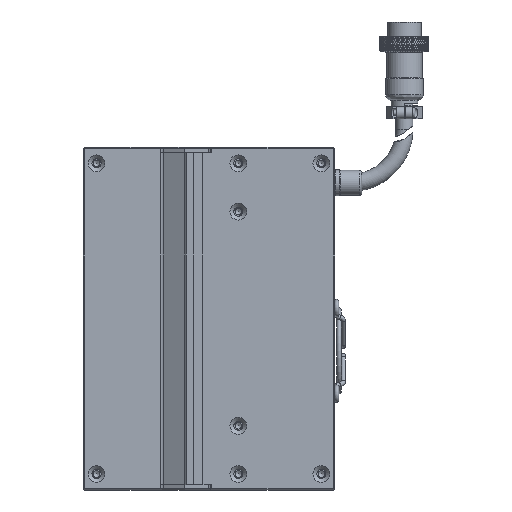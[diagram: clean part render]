
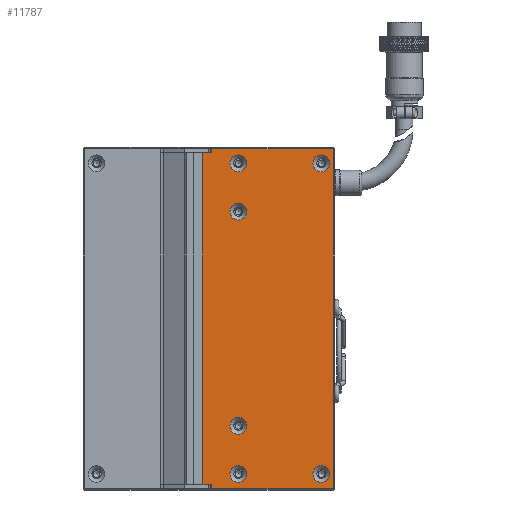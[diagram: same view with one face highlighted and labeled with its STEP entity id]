
A CAD part, left-side view. The second image highlights one B-rep face of the part: STEP entity #11787.
In plain terms, the highlighted planar face has unit normal (-1, 0, 0).
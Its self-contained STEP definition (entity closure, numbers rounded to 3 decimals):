
#1201 = CIRCLE ( 'NONE', #105301, 3.15 ) ;
#1834 = VERTEX_POINT ( 'NONE', #111870 ) ;
#2193 = DIRECTION ( 'NONE',  ( 0., 0., -1. ) ) ;
#2277 = ORIENTED_EDGE ( 'NONE', *, *, #96082, .F. ) ;
#4391 = DIRECTION ( 'NONE',  ( -1., 0., 0. ) ) ;
#4926 = ORIENTED_EDGE ( 'NONE', *, *, #40234, .F. ) ;
#5077 = EDGE_LOOP ( 'NONE', ( #36560 ) ) ;
#7399 = DIRECTION ( 'NONE',  ( 0., 0., 1. ) ) ;
#10372 = EDGE_CURVE ( 'NONE', #79257, #79257, #1201, .T. ) ;
#10379 = ORIENTED_EDGE ( 'NONE', *, *, #43570, .T. ) ;
#11787 = ADVANCED_FACE ( 'NONE', ( #117139, #54249, #112806, #42761, #102862, #37022, #78467 ), #102661, .F. ) ;
#13398 = CIRCLE ( 'NONE', #93582, 3.15 ) ;
#13617 = CIRCLE ( 'NONE', #63033, 3.15 ) ;
#13858 = VECTOR ( 'NONE', #88646, 1000. ) ;
#14790 = EDGE_LOOP ( 'NONE', ( #86391 ) ) ;
#15549 = VERTEX_POINT ( 'NONE', #117860 ) ;
#16073 = DIRECTION ( 'NONE',  ( -1., 0., 0. ) ) ;
#16215 = EDGE_LOOP ( 'NONE', ( #71949 ) ) ;
#17066 = VECTOR ( 'NONE', #97091, 1000. ) ;
#19313 = CARTESIAN_POINT ( 'NONE',  ( -24.998, -72.5, -63.5 ) ) ;
#21070 = DIRECTION ( 'NONE',  ( 1., 0., 0. ) ) ;
#21776 = CARTESIAN_POINT ( 'NONE',  ( -24.998, -26.5, 63.5 ) ) ;
#23394 = ORIENTED_EDGE ( 'NONE', *, *, #114897, .F. ) ;
#24327 = CARTESIAN_POINT ( 'NONE',  ( -24.998, -26.5, 55. ) ) ;
#27078 = CARTESIAN_POINT ( 'NONE',  ( -24.998, -36.5, -54.85 ) ) ;
#28332 = DIRECTION ( 'NONE',  ( -1., 0., 0. ) ) ;
#31043 = ORIENTED_EDGE ( 'NONE', *, *, #78822, .T. ) ;
#31324 = VERTEX_POINT ( 'NONE', #56126 ) ;
#34514 = DIRECTION ( 'NONE',  ( -1., 0., 0. ) ) ;
#35276 = CIRCLE ( 'NONE', #59886, 3.15 ) ;
#36125 = EDGE_LOOP ( 'NONE', ( #31043, #85332, #79549, #86546, #112242, #10379, #91825, #68360 ) ) ;
#36384 = DIRECTION ( 'NONE',  ( 0., 0., 1. ) ) ;
#36560 = ORIENTED_EDGE ( 'NONE', *, *, #85245, .F. ) ;
#36582 = DIRECTION ( 'NONE',  ( 0., -1., 0. ) ) ;
#36669 = EDGE_CURVE ( 'NONE', #15549, #31324, #106288, .T. ) ;
#37022 = FACE_BOUND ( 'NONE', #5077, .T. ) ;
#37691 = CARTESIAN_POINT ( 'NONE',  ( -24.998, -72., 62. ) ) ;
#38459 = EDGE_CURVE ( 'NONE', #47212, #1834, #104721, .T. ) ;
#39740 = DIRECTION ( 'NONE',  ( 0., 0., 1. ) ) ;
#39914 = EDGE_CURVE ( 'NONE', #31324, #83804, #70137, .T. ) ;
#39942 = CARTESIAN_POINT ( 'NONE',  ( -24.998, -26.5, 62. ) ) ;
#40234 = EDGE_CURVE ( 'NONE', #60627, #60627, #91625, .T. ) ;
#41449 = LINE ( 'NONE', #24327, #17066 ) ;
#41628 = VERTEX_POINT ( 'NONE', #47744 ) ;
#42761 = FACE_BOUND ( 'NONE', #45939, .T. ) ;
#43341 = DIRECTION ( 'NONE',  ( 0., 0., 1. ) ) ;
#43570 = EDGE_CURVE ( 'NONE', #68264, #83804, #41449, .T. ) ;
#44342 = CARTESIAN_POINT ( 'NONE',  ( -24.998, -36.5, 43.15 ) ) ;
#45590 = DIRECTION ( 'NONE',  ( -1., 0., 0. ) ) ;
#45939 = EDGE_LOOP ( 'NONE', ( #23394 ) ) ;
#45983 = CARTESIAN_POINT ( 'NONE',  ( -24.998, -36.5, 58. ) ) ;
#46642 = LINE ( 'NONE', #19313, #62305 ) ;
#47057 = EDGE_CURVE ( 'NONE', #41628, #93303, #66865, .T. ) ;
#47212 = VERTEX_POINT ( 'NONE', #74604 ) ;
#47377 = CARTESIAN_POINT ( 'NONE',  ( -24.998, -72.5, -62. ) ) ;
#47744 = CARTESIAN_POINT ( 'NONE',  ( -24.998, -26.5, -62. ) ) ;
#48108 = DIRECTION ( 'NONE',  ( 0., -1., 0. ) ) ;
#48887 = CARTESIAN_POINT ( 'NONE',  ( -24.998, -72.5, 62. ) ) ;
#49765 = EDGE_CURVE ( 'NONE', #93303, #47212, #46642, .T. ) ;
#51362 = DIRECTION ( 'NONE',  ( 0., 1., 0. ) ) ;
#52355 = CARTESIAN_POINT ( 'NONE',  ( -24.998, -26.5, -55. ) ) ;
#52752 = CARTESIAN_POINT ( 'NONE',  ( -24.998, -36.5, -40. ) ) ;
#54194 = EDGE_LOOP ( 'NONE', ( #4926 ) ) ;
#54249 = FACE_BOUND ( 'NONE', #14790, .T. ) ;
#55970 = DIRECTION ( 'NONE',  ( 0., 0., 1. ) ) ;
#56126 = CARTESIAN_POINT ( 'NONE',  ( -24.998, -23.25, 62. ) ) ;
#57624 = VERTEX_POINT ( 'NONE', #44342 ) ;
#58626 = LINE ( 'NONE', #47377, #71396 ) ;
#59112 = CARTESIAN_POINT ( 'NONE',  ( -24.998, -26.5, -63.5 ) ) ;
#59284 = CARTESIAN_POINT ( 'NONE',  ( -24.998, -67.5, -58. ) ) ;
#59886 = AXIS2_PLACEMENT_3D ( 'NONE', #83048, #28332, #55970 ) ;
#60627 = VERTEX_POINT ( 'NONE', #78804 ) ;
#61702 = CARTESIAN_POINT ( 'NONE',  ( -24.998, -36.5, -58. ) ) ;
#61737 = CIRCLE ( 'NONE', #63388, 3.15 ) ;
#62305 = VECTOR ( 'NONE', #36582, 1000. ) ;
#63033 = AXIS2_PLACEMENT_3D ( 'NONE', #52752, #90254, #89847 ) ;
#63388 = AXIS2_PLACEMENT_3D ( 'NONE', #61702, #34514, #43341 ) ;
#65334 = LINE ( 'NONE', #106476, #98307 ) ;
#66194 = VERTEX_POINT ( 'NONE', #81031 ) ;
#66865 = LINE ( 'NONE', #52355, #13858 ) ;
#67410 = CARTESIAN_POINT ( 'NONE',  ( -24.998, -72.5, 62. ) ) ;
#67942 = AXIS2_PLACEMENT_3D ( 'NONE', #45983, #45590, #36384 ) ;
#68264 = VERTEX_POINT ( 'NONE', #21776 ) ;
#68360 = ORIENTED_EDGE ( 'NONE', *, *, #36669, .F. ) ;
#70137 = LINE ( 'NONE', #48887, #93122 ) ;
#70854 = CARTESIAN_POINT ( 'NONE',  ( -24.998, -67.5, 58. ) ) ;
#71396 = VECTOR ( 'NONE', #112053, 1000. ) ;
#71943 = VERTEX_POINT ( 'NONE', #100689 ) ;
#71949 = ORIENTED_EDGE ( 'NONE', *, *, #10372, .F. ) ;
#74604 = CARTESIAN_POINT ( 'NONE',  ( -24.998, -72., -63.5 ) ) ;
#78467 = FACE_OUTER_BOUND ( 'NONE', #36125, .T. ) ;
#78804 = CARTESIAN_POINT ( 'NONE',  ( -24.998, -36.5, 61.15 ) ) ;
#78822 = EDGE_CURVE ( 'NONE', #15549, #41628, #58626, .T. ) ;
#79257 = VERTEX_POINT ( 'NONE', #102908 ) ;
#79549 = ORIENTED_EDGE ( 'NONE', *, *, #49765, .T. ) ;
#81031 = CARTESIAN_POINT ( 'NONE',  ( -24.998, -67.5, -54.85 ) ) ;
#82992 = EDGE_CURVE ( 'NONE', #1834, #68264, #65334, .T. ) ;
#83048 = CARTESIAN_POINT ( 'NONE',  ( -24.998, -36.5, 40. ) ) ;
#83804 = VERTEX_POINT ( 'NONE', #39942 ) ;
#85245 = EDGE_CURVE ( 'NONE', #71943, #71943, #13617, .T. ) ;
#85332 = ORIENTED_EDGE ( 'NONE', *, *, #47057, .T. ) ;
#86391 = ORIENTED_EDGE ( 'NONE', *, *, #108822, .F. ) ;
#86546 = ORIENTED_EDGE ( 'NONE', *, *, #38459, .T. ) ;
#87688 = VECTOR ( 'NONE', #7399, 1000. ) ;
#88646 = DIRECTION ( 'NONE',  ( 0., 0., -1. ) ) ;
#89240 = DIRECTION ( 'NONE',  ( 0., 0., 1. ) ) ;
#89847 = DIRECTION ( 'NONE',  ( 0., 0., 1. ) ) ;
#90254 = DIRECTION ( 'NONE',  ( -1., 0., 0. ) ) ;
#91625 = CIRCLE ( 'NONE', #67942, 3.15 ) ;
#91825 = ORIENTED_EDGE ( 'NONE', *, *, #39914, .F. ) ;
#91892 = VERTEX_POINT ( 'NONE', #27078 ) ;
#93122 = VECTOR ( 'NONE', #48108, 1000. ) ;
#93303 = VERTEX_POINT ( 'NONE', #59112 ) ;
#93582 = AXIS2_PLACEMENT_3D ( 'NONE', #59284, #4391, #39740 ) ;
#94630 = AXIS2_PLACEMENT_3D ( 'NONE', #67410, #21070, #2193 ) ;
#94758 = VECTOR ( 'NONE', #101630, 1000. ) ;
#96026 = EDGE_LOOP ( 'NONE', ( #2277 ) ) ;
#96082 = EDGE_CURVE ( 'NONE', #66194, #66194, #13398, .T. ) ;
#97091 = DIRECTION ( 'NONE',  ( 0., 0., -1. ) ) ;
#98307 = VECTOR ( 'NONE', #51362, 1000. ) ;
#100689 = CARTESIAN_POINT ( 'NONE',  ( -24.998, -36.5, -36.85 ) ) ;
#101630 = DIRECTION ( 'NONE',  ( 0., 0., 1. ) ) ;
#102661 = PLANE ( 'NONE',  #94630 ) ;
#102862 = FACE_BOUND ( 'NONE', #54194, .T. ) ;
#102908 = CARTESIAN_POINT ( 'NONE',  ( -24.998, -67.5, 61.15 ) ) ;
#104721 = LINE ( 'NONE', #37691, #94758 ) ;
#105301 = AXIS2_PLACEMENT_3D ( 'NONE', #70854, #16073, #89240 ) ;
#106288 = LINE ( 'NONE', #107375, #87688 ) ;
#106476 = CARTESIAN_POINT ( 'NONE',  ( -24.998, -72.5, 63.5 ) ) ;
#107375 = CARTESIAN_POINT ( 'NONE',  ( -24.998, -23.25, -62. ) ) ;
#108822 = EDGE_CURVE ( 'NONE', #91892, #91892, #61737, .T. ) ;
#111870 = CARTESIAN_POINT ( 'NONE',  ( -24.998, -72., 63.5 ) ) ;
#112053 = DIRECTION ( 'NONE',  ( 0., -1., 0. ) ) ;
#112242 = ORIENTED_EDGE ( 'NONE', *, *, #82992, .T. ) ;
#112806 = FACE_BOUND ( 'NONE', #16215, .T. ) ;
#114897 = EDGE_CURVE ( 'NONE', #57624, #57624, #35276, .T. ) ;
#117139 = FACE_BOUND ( 'NONE', #96026, .T. ) ;
#117860 = CARTESIAN_POINT ( 'NONE',  ( -24.998, -23.25, -62. ) ) ;
